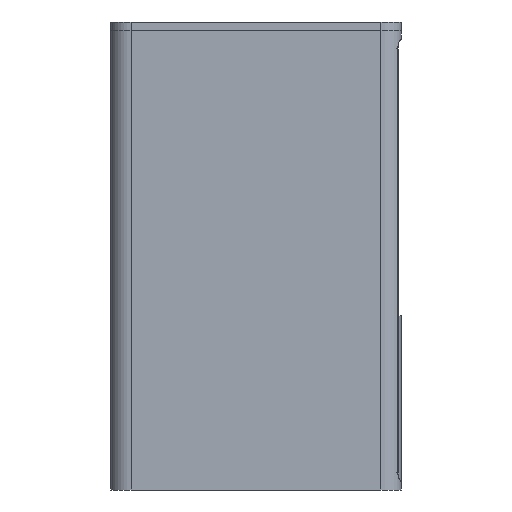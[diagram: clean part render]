
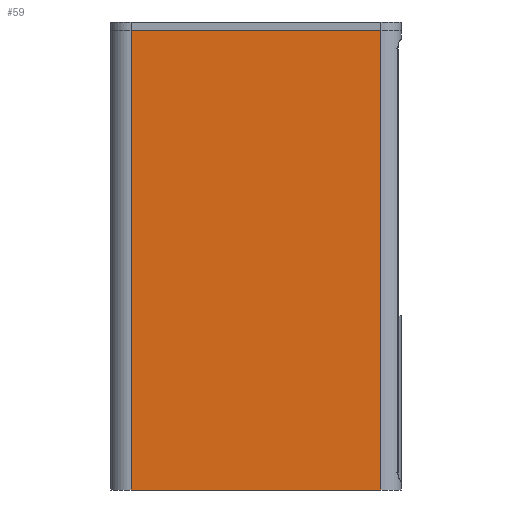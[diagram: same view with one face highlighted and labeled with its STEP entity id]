
A CAD part, left-side view. The second image highlights one B-rep face of the part: STEP entity #59.
In plain terms, the highlighted planar face has unit normal (-1, 0, 0).
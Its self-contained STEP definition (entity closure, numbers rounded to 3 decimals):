
#59 = ADVANCED_FACE('',(#60),#74,.F.);
#60 = FACE_BOUND('',#61,.F.);
#61 = EDGE_LOOP('',(#62,#97,#125,#153));
#62 = ORIENTED_EDGE('',*,*,#63,.F.);
#63 = EDGE_CURVE('',#64,#66,#68,.T.);
#64 = VERTEX_POINT('',#65);
#65 = CARTESIAN_POINT('',(0.,7.,158.));
#66 = VERTEX_POINT('',#67);
#67 = CARTESIAN_POINT('',(0.,93.,158.));
#68 = SURFACE_CURVE('',#69,(#73,#85),.PCURVE_S1.);
#69 = LINE('',#70,#71);
#70 = CARTESIAN_POINT('',(0.,0.,158.));
#71 = VECTOR('',#72,1.);
#72 = DIRECTION('',(-0.,1.,0.));
#73 = PCURVE('',#74,#79);
#74 = PLANE('',#75);
#75 = AXIS2_PLACEMENT_3D('',#76,#77,#78);
#76 = CARTESIAN_POINT('',(0.,0.,0.));
#77 = DIRECTION('',(1.,0.,-0.));
#78 = DIRECTION('',(0.,0.,1.));
#79 = DEFINITIONAL_REPRESENTATION('',(#80),#84);
#80 = LINE('',#81,#82);
#81 = CARTESIAN_POINT('',(158.,0.));
#82 = VECTOR('',#83,1.);
#83 = DIRECTION('',(0.,-1.));
#84 = ( GEOMETRIC_REPRESENTATION_CONTEXT(2) 
PARAMETRIC_REPRESENTATION_CONTEXT() REPRESENTATION_CONTEXT('2D SPACE',''
  ) );
#85 = PCURVE('',#86,#91);
#86 = PLANE('',#87);
#87 = AXIS2_PLACEMENT_3D('',#88,#89,#90);
#88 = CARTESIAN_POINT('',(0.,0.,158.));
#89 = DIRECTION('',(0.,0.,1.));
#90 = DIRECTION('',(1.,0.,-0.));
#91 = DEFINITIONAL_REPRESENTATION('',(#92),#96);
#92 = LINE('',#93,#94);
#93 = CARTESIAN_POINT('',(0.,0.));
#94 = VECTOR('',#95,1.);
#95 = DIRECTION('',(0.,1.));
#96 = ( GEOMETRIC_REPRESENTATION_CONTEXT(2) 
PARAMETRIC_REPRESENTATION_CONTEXT() REPRESENTATION_CONTEXT('2D SPACE',''
  ) );
#97 = ORIENTED_EDGE('',*,*,#98,.F.);
#98 = EDGE_CURVE('',#99,#64,#101,.T.);
#99 = VERTEX_POINT('',#100);
#100 = CARTESIAN_POINT('',(0.,7.,0.));
#101 = SURFACE_CURVE('',#102,(#106,#113),.PCURVE_S1.);
#102 = LINE('',#103,#104);
#103 = CARTESIAN_POINT('',(0.,7.,0.));
#104 = VECTOR('',#105,1.);
#105 = DIRECTION('',(0.,0.,1.));
#106 = PCURVE('',#74,#107);
#107 = DEFINITIONAL_REPRESENTATION('',(#108),#112);
#108 = LINE('',#109,#110);
#109 = CARTESIAN_POINT('',(0.,-7.));
#110 = VECTOR('',#111,1.);
#111 = DIRECTION('',(1.,0.));
#112 = ( GEOMETRIC_REPRESENTATION_CONTEXT(2) 
PARAMETRIC_REPRESENTATION_CONTEXT() REPRESENTATION_CONTEXT('2D SPACE',''
  ) );
#113 = PCURVE('',#114,#119);
#114 = CYLINDRICAL_SURFACE('',#115,7.);
#115 = AXIS2_PLACEMENT_3D('',#116,#117,#118);
#116 = CARTESIAN_POINT('',(7.,7.,0.));
#117 = DIRECTION('',(0.,0.,1.));
#118 = DIRECTION('',(-1.,-0.,0.));
#119 = DEFINITIONAL_REPRESENTATION('',(#120),#124);
#120 = LINE('',#121,#122);
#121 = CARTESIAN_POINT('',(0.,0.));
#122 = VECTOR('',#123,1.);
#123 = DIRECTION('',(0.,1.));
#124 = ( GEOMETRIC_REPRESENTATION_CONTEXT(2) 
PARAMETRIC_REPRESENTATION_CONTEXT() REPRESENTATION_CONTEXT('2D SPACE',''
  ) );
#125 = ORIENTED_EDGE('',*,*,#126,.T.);
#126 = EDGE_CURVE('',#99,#127,#129,.T.);
#127 = VERTEX_POINT('',#128);
#128 = CARTESIAN_POINT('',(0.,93.,0.));
#129 = SURFACE_CURVE('',#130,(#134,#141),.PCURVE_S1.);
#130 = LINE('',#131,#132);
#131 = CARTESIAN_POINT('',(0.,0.,0.));
#132 = VECTOR('',#133,1.);
#133 = DIRECTION('',(-0.,1.,0.));
#134 = PCURVE('',#74,#135);
#135 = DEFINITIONAL_REPRESENTATION('',(#136),#140);
#136 = LINE('',#137,#138);
#137 = CARTESIAN_POINT('',(0.,0.));
#138 = VECTOR('',#139,1.);
#139 = DIRECTION('',(0.,-1.));
#140 = ( GEOMETRIC_REPRESENTATION_CONTEXT(2) 
PARAMETRIC_REPRESENTATION_CONTEXT() REPRESENTATION_CONTEXT('2D SPACE',''
  ) );
#141 = PCURVE('',#142,#147);
#142 = PLANE('',#143);
#143 = AXIS2_PLACEMENT_3D('',#144,#145,#146);
#144 = CARTESIAN_POINT('',(0.,0.,0.));
#145 = DIRECTION('',(0.,0.,1.));
#146 = DIRECTION('',(1.,0.,-0.));
#147 = DEFINITIONAL_REPRESENTATION('',(#148),#152);
#148 = LINE('',#149,#150);
#149 = CARTESIAN_POINT('',(0.,0.));
#150 = VECTOR('',#151,1.);
#151 = DIRECTION('',(0.,1.));
#152 = ( GEOMETRIC_REPRESENTATION_CONTEXT(2) 
PARAMETRIC_REPRESENTATION_CONTEXT() REPRESENTATION_CONTEXT('2D SPACE',''
  ) );
#153 = ORIENTED_EDGE('',*,*,#154,.T.);
#154 = EDGE_CURVE('',#127,#66,#155,.T.);
#155 = SURFACE_CURVE('',#156,(#160,#167),.PCURVE_S1.);
#156 = LINE('',#157,#158);
#157 = CARTESIAN_POINT('',(0.,93.,0.));
#158 = VECTOR('',#159,1.);
#159 = DIRECTION('',(0.,0.,1.));
#160 = PCURVE('',#74,#161);
#161 = DEFINITIONAL_REPRESENTATION('',(#162),#166);
#162 = LINE('',#163,#164);
#163 = CARTESIAN_POINT('',(0.,-93.));
#164 = VECTOR('',#165,1.);
#165 = DIRECTION('',(1.,0.));
#166 = ( GEOMETRIC_REPRESENTATION_CONTEXT(2) 
PARAMETRIC_REPRESENTATION_CONTEXT() REPRESENTATION_CONTEXT('2D SPACE',''
  ) );
#167 = PCURVE('',#168,#173);
#168 = CYLINDRICAL_SURFACE('',#169,7.);
#169 = AXIS2_PLACEMENT_3D('',#170,#171,#172);
#170 = CARTESIAN_POINT('',(7.,93.,0.));
#171 = DIRECTION('',(0.,0.,1.));
#172 = DIRECTION('',(-1.,-0.,0.));
#173 = DEFINITIONAL_REPRESENTATION('',(#174),#178);
#174 = LINE('',#175,#176);
#175 = CARTESIAN_POINT('',(-0.,0.));
#176 = VECTOR('',#177,1.);
#177 = DIRECTION('',(-0.,1.));
#178 = ( GEOMETRIC_REPRESENTATION_CONTEXT(2) 
PARAMETRIC_REPRESENTATION_CONTEXT() REPRESENTATION_CONTEXT('2D SPACE',''
  ) );
